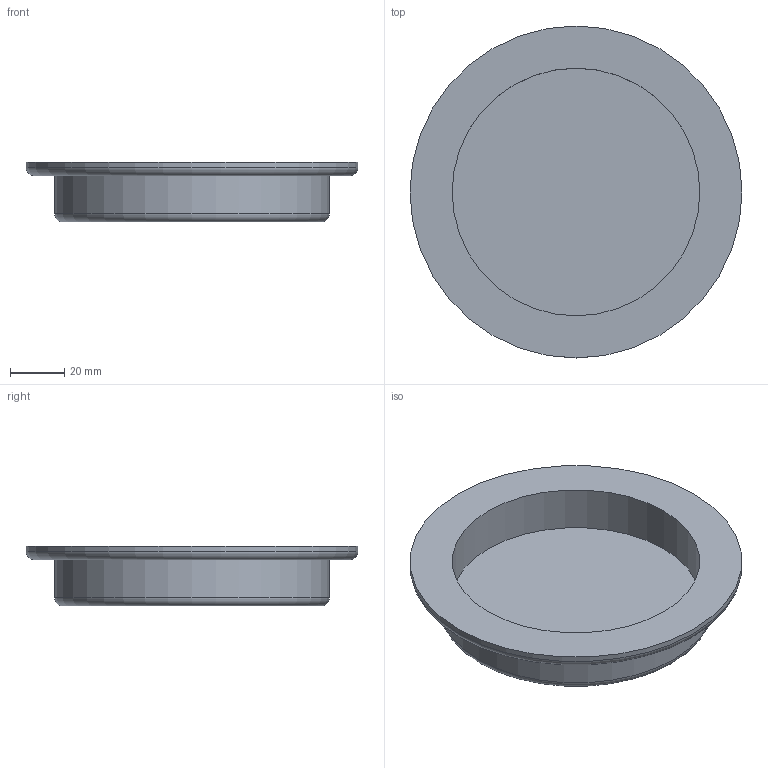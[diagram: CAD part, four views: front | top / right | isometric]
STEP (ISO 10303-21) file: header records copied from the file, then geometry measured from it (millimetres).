
FILE_DESCRIPTION((''),'2;1');
FILE_NAME('U:\Wolfgang\Marcel-3D\fertig\Kapitel 4\1001140.stp','2011-04-21T08:26:33',('TK1'),(''),'Autodesk Inventor 2010','Autodesk Inventor 2010','');
FILE_SCHEMA(('AUTOMOTIVE_DESIGN { 1 0 10303 214 1 1 1 1 }'));
Length unit declared in the file: millimetre
Products named in the file (1): 1001140
Bounding box: 122 x 122 x 22 mm (x, y, z)
Volume: 82747.9 mm3; surface area: 34640.2 mm2
Topology: 1 solids, 1 shells, 9 faces, 13 edges, 8 vertices
Faces by surface type: plane 4, cylinder 3, torus 2
Full cylindrical faces by diameter (mm): 91 x1, 101 x1, 122 x1
Entity records: 200 total; most frequent: DIRECTION 36, CARTESIAN_POINT 26, AXIS2_PLACEMENT_3D 18, ORIENTED_EDGE 16, EDGE_LOOP 16, FACE_OUTER_BOUND 9, ADVANCED_FACE 9, VERTEX_POINT 8
